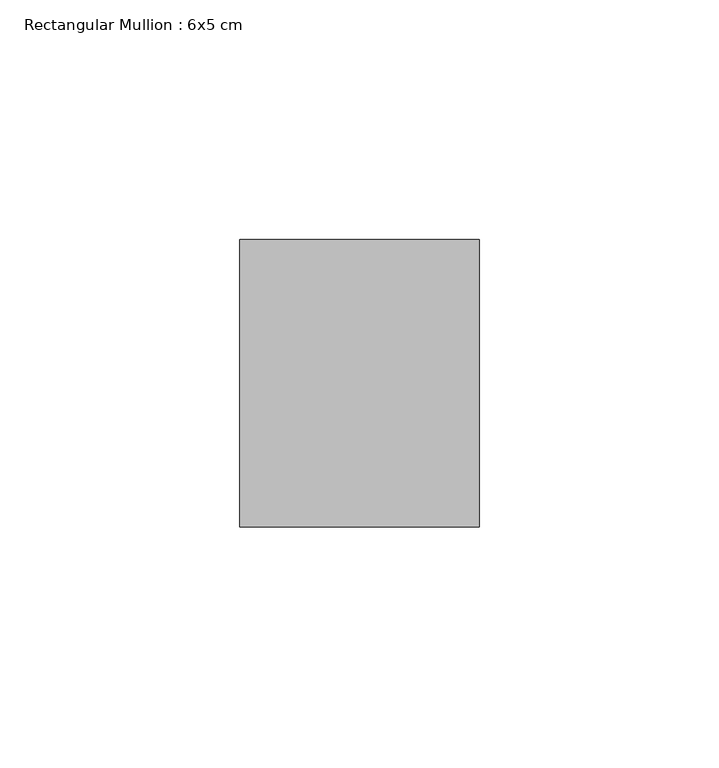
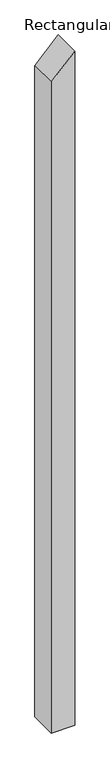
"""IFC4 building model written with IfcOpenShell, lengths in millimetres: member geometry, Rectangular Mullion : 6x5 cm."""

from ifc_helpers import new_model, si_unit, frame, origin, place, context, project, spatial, polyline, outline, extrude, source, transform, mapped, element, save


def rectangular_mullion_6x5_cm_7994da54(model_context):
    return source(origin(), model_context, "Body", "SweptSolid", [
        extrude(outline(polyline([(-46.1833952, 25.0), (-98.3849277, -25.0), (-1566.0459765, -25.0), (-1566.0459765, 25.0), (-46.1833952, 25.0)])), frame((0.0, 20.0, 0.0), z_axis=(0.0, 1.0, 0.0), x_axis=(0.0, 0.0, 1.0)), (0.0, 0.0, 1.0), 60.0),
    ])


if __name__ == "__main__":
    model = new_model("IFC4")
    model_context = context("Model", 3, world=origin())
    ifc_project = project(units=[si_unit("LENGTHUNIT", "METRE", prefix="MILLI")], contexts=[model_context])
    site = spatial("IfcSite", under=ifc_project)
    building = spatial("IfcBuilding", under=site)
    placement = place(None, origin())
    rectangular_mullion_6x5_cm_shape = rectangular_mullion_6x5_cm_7994da54(model_context)
    element("IfcMember", 1, ObjectType="Rectangular Mullion : 6x5 cm", at=placement, inside=building, context=model_context, shape_type="MappedRepresentation", body=[
        mapped(rectangular_mullion_6x5_cm_shape, transform((0.0, 0.0, 0.0), x_axis=(1.0, 0.0, 0.0), y_axis=(0.0, 1.0, 0.0), z_axis=(0.0, 0.0, 1.0))),
    ])
    save(model, "model.ifc")
